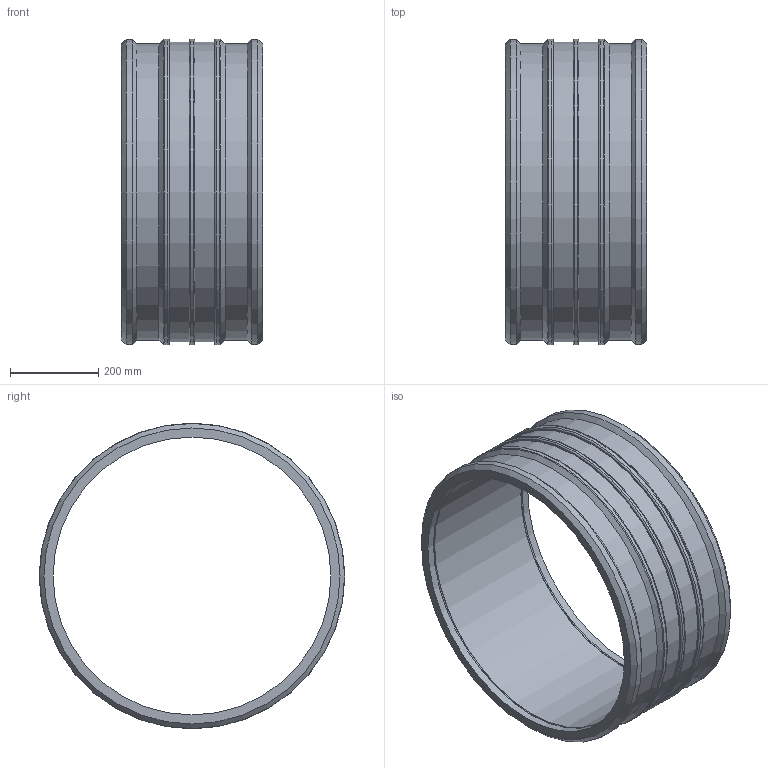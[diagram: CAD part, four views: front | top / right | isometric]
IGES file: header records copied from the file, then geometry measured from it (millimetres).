
Global section: file name: 4601S3630.ipt; native system: Autodesk Inventor 2015; preprocessor: unknown; author: KIM; date: 20190627.094248; units: millimetre
Bounding box: 320 x 693 x 693 mm (x, y, z)
Volume: 16455877.5 mm3; surface area: 1507999.6 mm2
Topology: 1 solids, 1 shells, 46 faces, 112 edges, 78 vertices
Faces by surface type: plane 14, revolution 13, cylinder 13, cone 6
Full cylindrical faces by diameter (mm): 4 x2, 15 x2, 671.24 x2, 679.14 x2, 693 x3
